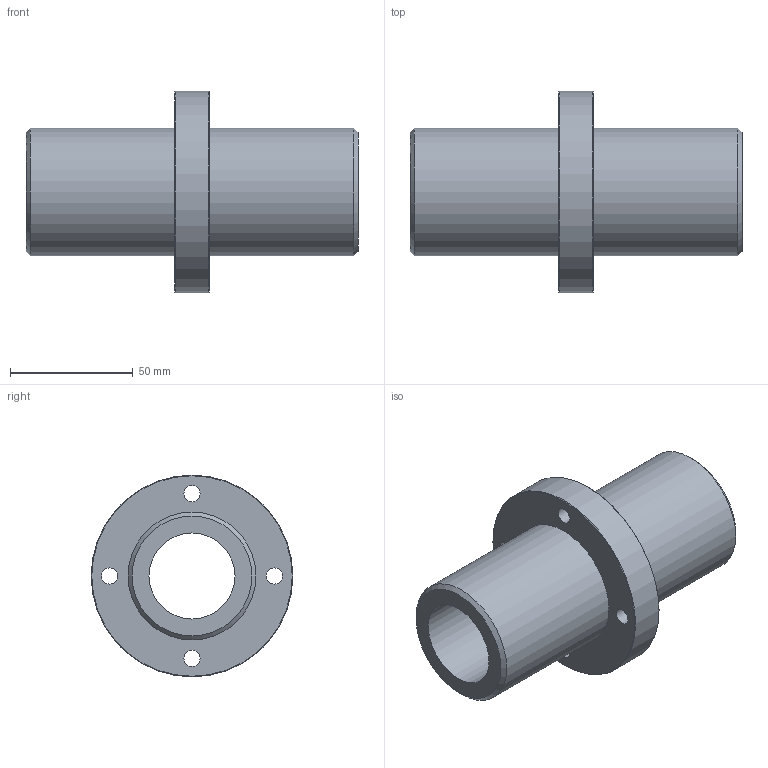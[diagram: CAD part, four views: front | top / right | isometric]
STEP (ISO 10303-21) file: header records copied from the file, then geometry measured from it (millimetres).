
FILE_DESCRIPTION(('STEP AP203'),'1');
FILE_NAME('//192.168.1.1/share/s-4 技術開発/s-4-4_CAD/s-4-4-3_見直し済み/PBC LINEAR修正済み/CFPJ/CFPJ_TOP/CFPJR/CFPJR35.step','2022-03-24T04:15:01',(' '),(' '),'Spatial InterOp 3D',' ',' ');
FILE_SCHEMA(('CONFIG_CONTROL_DESIGN'));
Length unit declared in the file: millimetre
Products named in the file (1): 1
Bounding box: 135 x 82 x 82 mm (x, y, z)
Volume: 197166.9 mm3; surface area: 47680.3 mm2
Topology: 1 solids, 1 shells, 24 faces, 51 edges, 35 vertices
Faces by surface type: cylinder 12, plane 8, cone 4
Full cylindrical faces by diameter (mm): 6.6 x4, 11 x4, 35 x1, 52 x2, 82 x1
Entity records: 588 total; most frequent: DIRECTION 106, CARTESIAN_POINT 81, EDGE_LOOP 56, ORIENTED_EDGE 56, AXIS2_PLACEMENT_3D 53, FACE_OUTER_BOUND 36, EDGE_CURVE 28, VERTEX_POINT 28
